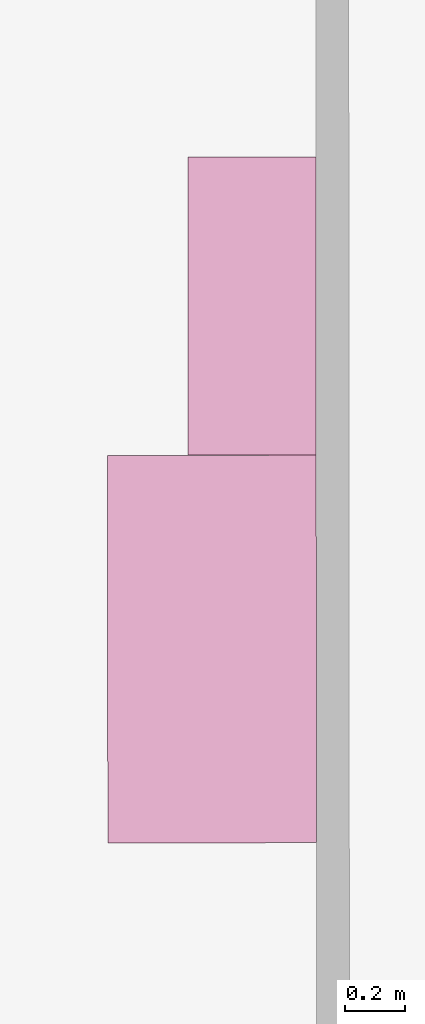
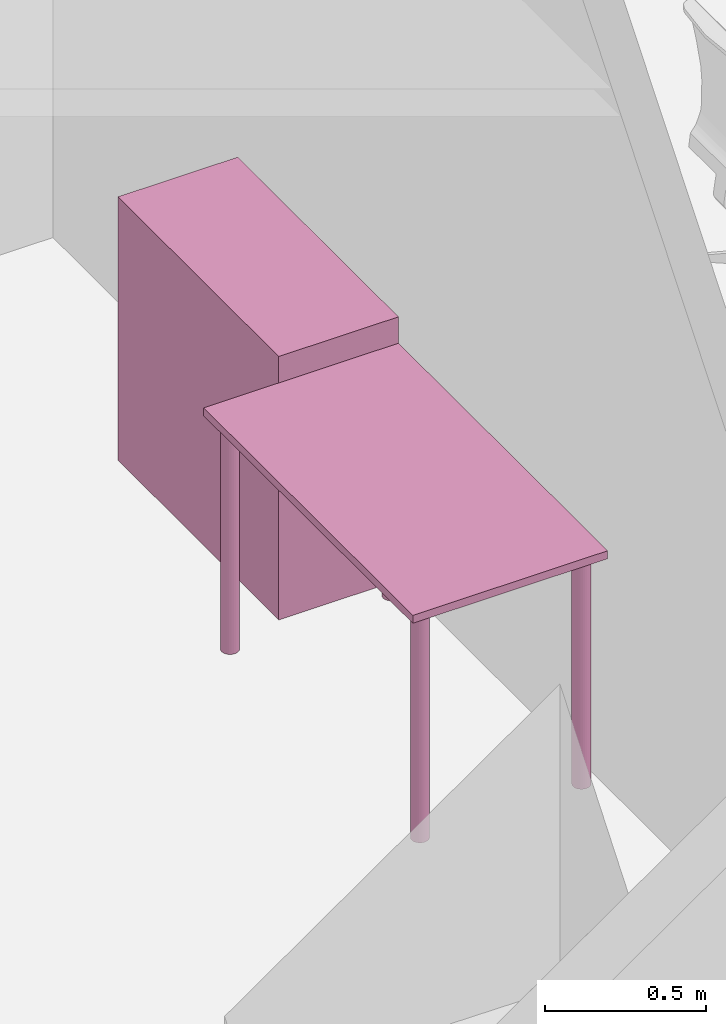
# One storey, part 98 of 128: 2 furnishings.
"""IFC2X3 building model written with IfcOpenShell, lengths in metres."""

from ifc_helpers import new_model, entity, si_unit, converted_unit, derived_unit, direction, frame, frame_2d, origin, origin_2d_with_axis, place, context, subcontext, project, spatial, rectangle, circle, extrude, source, transform, mapped, material, type_object, type_shapes, element, save


model = new_model("IFC2X3")

# Units and contexts
model_context = context("Model", 3, precision=1e-05, world=origin(), true_north=direction((6.123031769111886e-17, 1.0)))
body_context = subcontext(model_context, "Body", "Model", "MODEL_VIEW")
ifc_project = project(units=[si_unit("LENGTHUNIT", "METRE"), si_unit("AREAUNIT", "SQUARE_METRE"), converted_unit("PLANEANGLEUNIT", "DEGREE", entity("IfcPlaneAngleMeasure", 0.017453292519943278), si_unit("PLANEANGLEUNIT", "RADIAN"), dimensions=[0, 0, 0, 0, 0, 0, 0]), derived_unit("THERMALTRANSMITTANCEUNIT", [(si_unit("MASSUNIT", "GRAM", prefix="KILO"), 1), (si_unit("THERMODYNAMICTEMPERATUREUNIT", "KELVIN"), -1), (si_unit("TIMEUNIT", "SECOND"), -3)])], contexts=[model_context])

# Site, building, storey
site_placement = place(None, origin())
site = spatial("IfcSite", under=ifc_project, at=site_placement, Name="Default", CompositionType="ELEMENT")
building_placement = place(site_placement, origin())
building = spatial("IfcBuilding", under=site, at=building_placement, CompositionType="ELEMENT")
storey_placement = place(building_placement, origin())
storey = spatial("IfcBuildingStorey", under=building, at=storey_placement, Name="00_RDC CAF", CompositionType="ELEMENT", Elevation=2.4982504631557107e-13)

# Furnishings
ifc_material = material(Name="ARC - Mo - Blanc")
furniture_type_1 = type_object("IfcFurnitureType", Name="Mo_Table:Mo_Table_700x1300x900mm", AssemblyPlace="NOTDEFINED", material=ifc_material)
shared_shape_1 = source(origin(), body_context, "Body", "SweptSolid", [
    extrude(circle(Radius=0.03, at=origin_2d_with_axis()), frame((-0.28999999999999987, -0.5899999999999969, 0.0)), (0.0, 0.0, 1.0), 0.87),
    extrude(circle(Radius=0.03, at=origin_2d_with_axis()), frame((0.2900000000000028, -0.5899999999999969, 0.0)), (0.0, 0.0, 1.0), 0.87),
    extrude(circle(Radius=0.03, at=frame_2d((0.0, -6.767919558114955e-17), x_axis=(1.0, 0.0))), frame((0.2900000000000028, 0.5900000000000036, 0.0)), (0.0, 0.0, 1.0), 0.87),
    extrude(circle(Radius=0.03, at=frame_2d((0.0, -6.767919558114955e-17), x_axis=(1.0, 0.0))), frame((-0.28999999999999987, 0.5900000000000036, 0.0)), (0.0, 0.0, 1.0), 0.87),
    extrude(rectangle(XDim=0.7000000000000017, YDim=1.2999999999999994, at=origin_2d_with_axis()), frame((0.0, 0.0, 0.87), z_axis=(0.0, 0.0, 1.0), x_axis=(-1.0, 0.0, 0.0)), (0.0, 0.0, 1.0), 0.029999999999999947),
])
type_shapes(furniture_type_1, [shared_shape_1])
furnishing_1_placement = place(storey_placement, frame((33.330155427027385, 133.6759804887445, 0.0), z_axis=(0.0, 0.0, 1.0), x_axis=(0.9999997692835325, 0.0006792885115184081, 0.0)))
element("IfcFurnishingElement", 1, at=furnishing_1_placement, inside=storey, type_object=furniture_type_1, material=ifc_material, Name="Mo_Table:Mo_Table_700x1300x900mm", ObjectType="Mo_Table:Mo_Table_700x1300x900mm", context=body_context, shape_type="MappedRepresentation", body=[
    mapped(shared_shape_1, transform((0.0, 0.0, 0.0), scale=1.0)),
])
furniture_type_2 = type_object("IfcFurnitureType", Name="Mo_Armoire_Porte_Coulissante:Mo_Armoire_basse_1000x430x1000mm", AssemblyPlace="NOTDEFINED", material=ifc_material)
shared_shape_2 = source(origin(), body_context, "Body", "SweptSolid", [
    extrude(rectangle(XDim=0.9999999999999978, YDim=0.4300000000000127, at=origin_2d_with_axis()), frame((0.04470032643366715, -0.2150000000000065, 0.0), z_axis=(0.0, 0.0, 1.0), x_axis=(-1.0, 0.0, 0.0)), (0.0, 0.0, 1.0), 1.0),
])
type_shapes(furniture_type_2, [shared_shape_2])
furnishing_2_placement = place(storey_placement, frame((33.67971380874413, 134.87091841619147, 0.0), z_axis=(0.0, 0.0, 1.0), x_axis=(0.0, -1.0, 0.0)))
element("IfcFurnishingElement", 2, at=furnishing_2_placement, inside=storey, type_object=furniture_type_2, material=ifc_material, Name="Mo_Armoire_Porte_Coulissante:Mo_Armoire_basse_1000x430x1000mm", ObjectType="Mo_Armoire_Porte_Coulissante:Mo_Armoire_basse_1000x430x1000mm", context=body_context, shape_type="MappedRepresentation", body=[
    mapped(shared_shape_2, transform((0.0, 0.0, 0.0), scale=1.0)),
])

save(model, "model.ifc")
